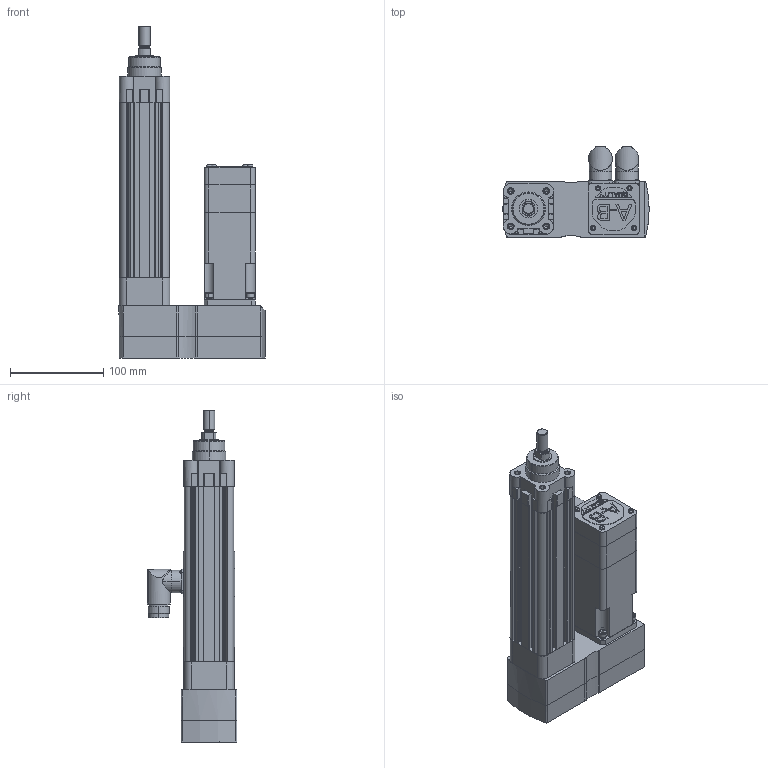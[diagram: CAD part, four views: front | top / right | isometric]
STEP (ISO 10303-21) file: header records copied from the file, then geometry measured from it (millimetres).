
FILE_DESCRIPTION (( 'STEP AP214' ), '1' );
FILE_NAME ('Rockwell Automation-$PARTNUMBER.STEP', '2015-07-10T13:35:54', ( 'Windows User' ), ( '' ), 'SwSTEP 2.0', 'SolidWorks 2015', '' );
FILE_SCHEMA (( 'AUTOMOTIVE_DESIGN' ));
Length unit declared in the file: millimetre
Products named in the file (16): Rockwell Automation-$PARTNUMBER_Rockwell Automation-MPAR-X2100C-V2E_627501; Rockwell Automation-$PARTNUMBER_Rockwell Automation-MPAR-X2100C-V2E_627501_1210438_ST_ASM; Rockwell Automation-$PARTNUMBER_Rockwell Automation-MPAR-X2100C-V2E_627501_1210166; Rockwell Automation-$PARTNUMBER_Rockwell Automation-MPAR-X2100C-V2E_627501_1210200; Rockwell Automation-$PARTNUMBER_Rockwell Automation-MPAR-X2100C-V2E_627501_200048_3; Rockwell Automation-$PARTNUMBER_Rockwell Automation-MPAR-X2100C-V2E_627501_200671_3; Rockwell Automation-$PARTNUMBER_Rockwell Automation-MPAR-X2100C-V2E_627501_PRT0001; Rockwell Automation-$PARTNUMBER_Rockwell Automation-MPAR-X2100C-V2E_MPL-x1530F-V-X207_MPL-x1530x-xJ42AA; Rockwell Automation-$PARTNUMBER_Rockwell Automation-MPAR-X2100C-V2E_MPL-x1530x-xJ42AA_MPL-15xx-Power Connector; Rockwell Automation-$PARTNUMBER_Rockwell Automation-MPAR-X2100C-V2E_MPL-x1530x-xJ42AA_MPL-15xx-Feedback Connector; Rockwell Automation-$PARTNUMBER_Rockwell Automation-MPAR-X2100C-V2E_MPL-x1530x-xJ42AA_MPL-15xx-Shaft-Key_1530-SHAFT-KEYED; Rockwell Automation-$PARTNUMBER_Rockwell Automation-MPAR-X2100C-V2E_MPL-x1530x-xJ42AA_MPL-15xx-Body_1530; Rockwell Automation-$PARTNUMBER_Rockwell Automation-MPAR-X2100C-V2E_MPAR-x2100x; Rockwell Automation-$PARTNUMBER_Rockwell Automation-MPAR-X2100C-V2E_2-543131; Rockwell Automation-$PARTNUMBER_Rockwell Automation-MPAR-X2100C-V2E_1-543131; Rockwell Automation-$PARTNUMBER
Assembly tree (25 placements, depth 4):
  Rockwell Automation-$PARTNUMBER
    Rockwell Automation-$PARTNUMBER_Rockwell Automation-MPAR-X2100C-V2E_MPAR-x2100x
      Rockwell Automation-$PARTNUMBER_Rockwell Automation-MPAR-X2100C-V2E_1-543131
      Rockwell Automation-$PARTNUMBER_Rockwell Automation-MPAR-X2100C-V2E_2-543131
    Rockwell Automation-$PARTNUMBER_Rockwell Automation-MPAR-X2100C-V2E_MPL-x1530F-V-X207_MPL-x1530x-xJ42AA
      Rockwell Automation-$PARTNUMBER_Rockwell Automation-MPAR-X2100C-V2E_MPL-x1530x-xJ42AA_MPL-15xx-Body_1530
      Rockwell Automation-$PARTNUMBER_Rockwell Automation-MPAR-X2100C-V2E_MPL-x1530x-xJ42AA_MPL-15xx-Shaft-Key_1530-SHAFT-KEYED
      Rockwell Automation-$PARTNUMBER_Rockwell Automation-MPAR-X2100C-V2E_MPL-x1530x-xJ42AA_MPL-15xx-Feedback Connector
      Rockwell Automation-$PARTNUMBER_Rockwell Automation-MPAR-X2100C-V2E_MPL-x1530x-xJ42AA_MPL-15xx-Power Connector
    Rockwell Automation-$PARTNUMBER_Rockwell Automation-MPAR-X2100C-V2E_627501
      Rockwell Automation-$PARTNUMBER_Rockwell Automation-MPAR-X2100C-V2E_627501_1210438_ST_ASM
        Rockwell Automation-$PARTNUMBER_Rockwell Automation-MPAR-X2100C-V2E_627501_PRT0001  x4
        Rockwell Automation-$PARTNUMBER_Rockwell Automation-MPAR-X2100C-V2E_627501_200671_3  x4
        Rockwell Automation-$PARTNUMBER_Rockwell Automation-MPAR-X2100C-V2E_627501_200048_3  x5
        Rockwell Automation-$PARTNUMBER_Rockwell Automation-MPAR-X2100C-V2E_627501_1210200
        Rockwell Automation-$PARTNUMBER_Rockwell Automation-MPAR-X2100C-V2E_627501_1210166
Bounding box: 157 x 96.6 x 356.5 mm (x, y, z)
Volume: 1240689 mm3; surface area: 298591.7 mm2
Topology: 25 solids, 25 shells, 1619 faces, 3966 edges, 2514 vertices
Faces by surface type: plane 641, cylinder 564, cone 252, bspline 114, torus 48
Entity records: 46026 total; most frequent: CARTESIAN_POINT 12817, DIRECTION 6871, ORIENTED_EDGE 6548, EDGE_CURVE 3274, AXIS2_PLACEMENT_3D 2580, VERTEX_POINT 2094, VECTOR 1711, LINE 1711
